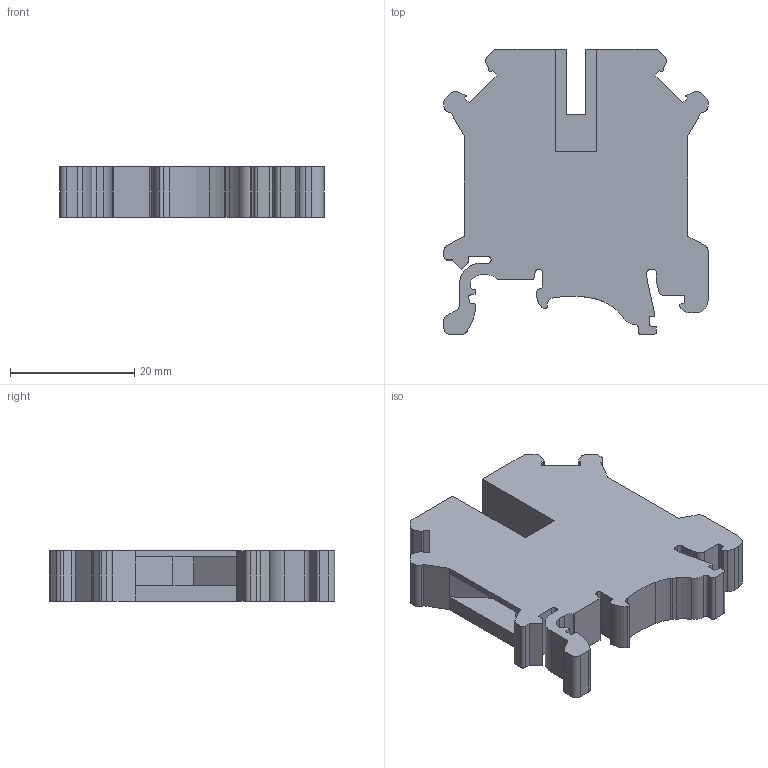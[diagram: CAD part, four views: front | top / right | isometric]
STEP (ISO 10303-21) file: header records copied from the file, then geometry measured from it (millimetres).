
FILE_DESCRIPTION(/* description */ (''),/* implementation_level */ '2;1');
FILE_NAME(/* name */ 'RCT6.stp',/* time_stamp */ '2014-12-09T08:57:02+08:00',/* author */ (''),/* organization */ (''),/* preprocessor_version */ 'ST-DEVELOPER v11',/* originating_system */ 'SIEMENS UGS NX 6.0',/* authorisation */ '');
FILE_SCHEMA (('CONFIG_CONTROL_DESIGN'));
Length unit declared in the file: millimetre
Products named in the file (1): 3004524_uk6n_select
Bounding box: 42.5 x 45.9 x 8.15 mm (x, y, z)
Volume: 10482 mm3; surface area: 5400.8 mm2
Topology: 1 solids, 1 shells, 169 faces, 489 edges, 324 vertices
Faces by surface type: plane 103, cylinder 66
Entity records: 5653 total; most frequent: CARTESIAN_POINT 983, ORIENTED_EDGE 978, DIRECTION 961, EDGE_CURVE 489, LINE 357, VECTOR 357, VERTEX_POINT 324, AXIS2_PLACEMENT_3D 302
